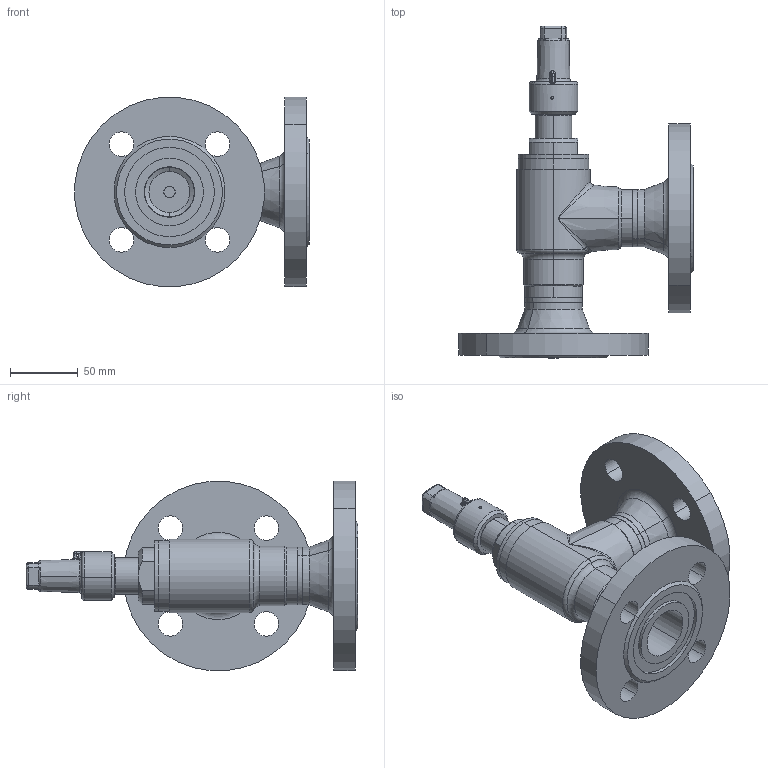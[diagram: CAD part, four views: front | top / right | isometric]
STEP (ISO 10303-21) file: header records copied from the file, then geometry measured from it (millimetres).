
FILE_DESCRIPTION (( 'STEP AP214' ), '1' );
FILE_NAME ('UVAA 41220c13-DN32_DIN-FL.STEP', '2010-09-13T05:46:22', ( 'Eckhard Grams' ), ( 'AWP Kälte Klima Armaturen GmbH' ), 'SwSTEP 2.0', 'SolidWorks 2002296', '' );
FILE_SCHEMA (( 'AUTOMOTIVE_DESIGN' ));
Length unit declared in the file: millimetre
Products named in the file (8): UVAA 41220c13-DN32_DIN-FL; Kappe 36302-10_DN6-15 (M27x1)_Standard; Deckel 44353-11-DN20-32_PS40_Standard; Geh,kpl 41220E13-DN32_DIN-FL_PS40_Standard; Gehäuse41200E13-DN32_PS40_R1_Standard; bead Geh.kpl 41220-13-2_Standard; Flansch-DIN2635-Nut_PS40_DIN-Flansch-DN032_PS40-Nut; bead Geh.kpl 41220-13-1_Standard
Assembly tree (8 placements, depth 3):
  UVAA 41220c13-DN32_DIN-FL
    Deckel 44353-11-DN20-32_PS40_Standard
    Geh,kpl 41220E13-DN32_DIN-FL_PS40_Standard
      Gehäuse41200E13-DN32_PS40_R1_Standard
      Flansch-DIN2635-Nut_PS40_DIN-Flansch-DN032_PS40-Nut  x2
      bead Geh.kpl 41220-13-1_Standard
      bead Geh.kpl 41220-13-2_Standard
    Kappe 36302-10_DN6-15 (M27x1)_Standard
Bounding box: 172.73 x 244.75 x 139.47 mm (x, y, z)
Volume: 643318.7 mm3; surface area: 156006.4 mm2
Topology: 7 solids, 7 shells, 273 faces, 622 edges, 372 vertices
Faces by surface type: cylinder 113, cone 54, plane 51, torus 32, bspline 23
Entity records: 25795 total; most frequent: CARTESIAN_POINT 19522, DIRECTION 1183, ORIENTED_EDGE 1092, EDGE_CURVE 546, AXIS2_PLACEMENT_3D 508, VERTEX_POINT 326, CIRCLE 278, EDGE_LOOP 274
